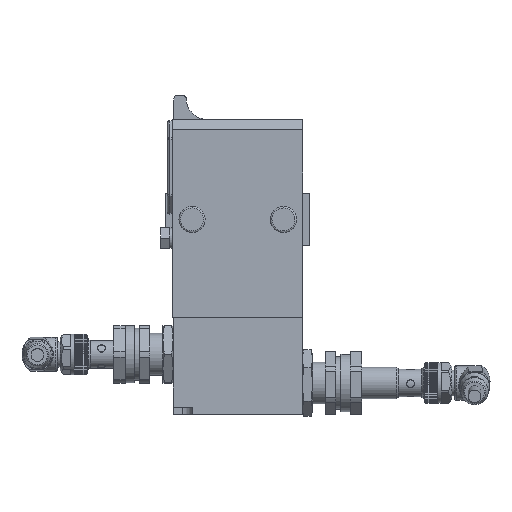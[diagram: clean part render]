
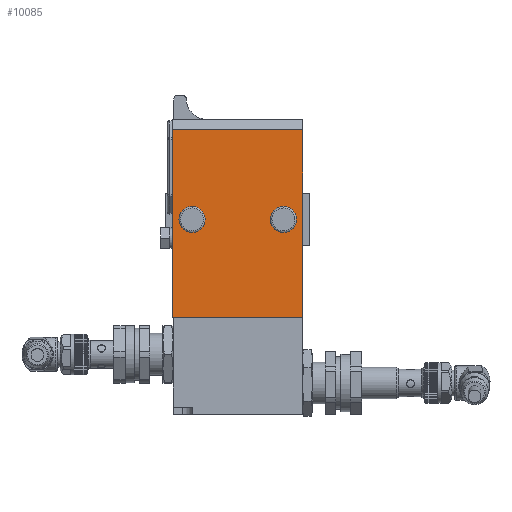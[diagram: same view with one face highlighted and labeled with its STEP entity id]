
A CAD part, front view. The second image highlights one B-rep face of the part: STEP entity #10085.
In plain terms, the highlighted planar face has unit normal (0, -1, 0).
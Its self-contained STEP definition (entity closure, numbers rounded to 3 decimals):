
#536=FACE_BOUND('',#1459,.T.);
#537=FACE_BOUND('',#1460,.T.);
#656=CIRCLE('',#10663,5.);
#657=CIRCLE('',#10664,5.);
#888=FACE_OUTER_BOUND('',#1458,.T.);
#1458=EDGE_LOOP('',(#6263,#6264,#6265,#6266));
#1459=EDGE_LOOP('',(#6267));
#1460=EDGE_LOOP('',(#6268));
#2151=LINE('',#13977,#2993);
#2152=LINE('',#13979,#2994);
#2153=LINE('',#13981,#2995);
#2154=LINE('',#13982,#2996);
#2993=VECTOR('',#11501,72.);
#2994=VECTOR('',#11502,50.);
#2995=VECTOR('',#11503,72.);
#2996=VECTOR('',#11504,50.);
#3843=VERTEX_POINT('',#13975);
#3844=VERTEX_POINT('',#13976);
#3845=VERTEX_POINT('',#13978);
#3846=VERTEX_POINT('',#13980);
#3847=VERTEX_POINT('',#13983);
#3848=VERTEX_POINT('',#13985);
#4827=EDGE_CURVE('',#3843,#3844,#2151,.T.);
#4828=EDGE_CURVE('',#3843,#3845,#2152,.T.);
#4829=EDGE_CURVE('',#3846,#3845,#2153,.T.);
#4830=EDGE_CURVE('',#3844,#3846,#2154,.T.);
#4831=EDGE_CURVE('',#3847,#3847,#656,.T.);
#4832=EDGE_CURVE('',#3848,#3848,#657,.T.);
#6263=ORIENTED_EDGE('',*,*,#4827,.F.);
#6264=ORIENTED_EDGE('',*,*,#4828,.T.);
#6265=ORIENTED_EDGE('',*,*,#4829,.F.);
#6266=ORIENTED_EDGE('',*,*,#4830,.F.);
#6267=ORIENTED_EDGE('',*,*,#4831,.F.);
#6268=ORIENTED_EDGE('',*,*,#4832,.F.);
#9113=PLANE('',#10662);
#10085=ADVANCED_FACE('',(#888,#536,#537),#9113,.T.);
#10662=AXIS2_PLACEMENT_3D('',#13974,#11499,#11500);
#10663=AXIS2_PLACEMENT_3D('',#13984,#11505,#11506);
#10664=AXIS2_PLACEMENT_3D('',#13986,#11507,#11508);
#11499=DIRECTION('center_axis',(0.,-1.,0.));
#11500=DIRECTION('ref_axis',(1.,0.,0.));
#11501=DIRECTION('',(0.,0.,-1.));
#11502=DIRECTION('',(-1.,0.,0.));
#11503=DIRECTION('',(0.,0.,1.));
#11504=DIRECTION('',(-1.,0.,0.));
#11505=DIRECTION('center_axis',(0.,-1.,0.));
#11506=DIRECTION('ref_axis',(-0.736,0.,0.677));
#11507=DIRECTION('center_axis',(0.,-1.,0.));
#11508=DIRECTION('ref_axis',(-0.322,0.,0.947));
#13974=CARTESIAN_POINT('Origin',(50.,0.,
113.));
#13975=CARTESIAN_POINT('',(50.,0.,109.));
#13976=CARTESIAN_POINT('',(50.,0.,37.));
#13977=CARTESIAN_POINT('',(50.,0.,109.));
#13978=CARTESIAN_POINT('',(0.,0.,109.));
#13979=CARTESIAN_POINT('',(50.,0.,109.));
#13980=CARTESIAN_POINT('',(0.,0.,37.));
#13981=CARTESIAN_POINT('',(0.,0.,37.));
#13982=CARTESIAN_POINT('',(50.,0.,37.));
#13983=CARTESIAN_POINT('',(46.179,0.,71.264));
#13984=CARTESIAN_POINT('Origin',(42.5,0.,
74.65));
#13985=CARTESIAN_POINT('',(9.111,0.,69.916));
#13986=CARTESIAN_POINT('Origin',(7.5,0.,
74.65));
